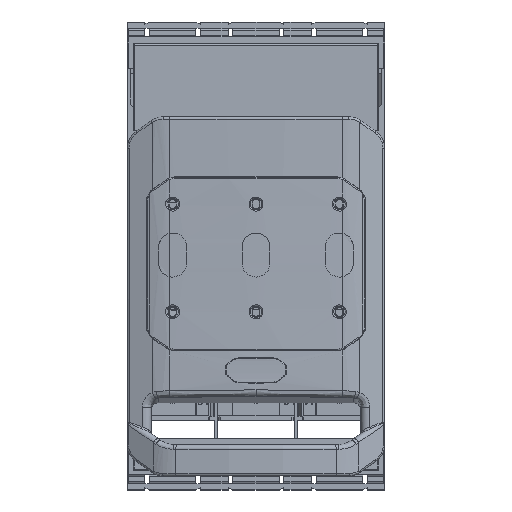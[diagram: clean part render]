
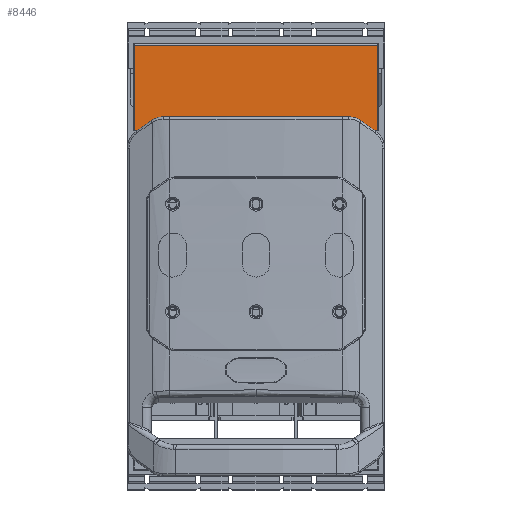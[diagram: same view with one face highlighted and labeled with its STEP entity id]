
A CAD part, top view. The second image highlights one B-rep face of the part: STEP entity #8446.
In plain terms, the highlighted planar face has unit normal (0, 0, 1).
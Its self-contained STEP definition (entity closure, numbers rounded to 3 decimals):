
#4458=CIRCLE('',#89658,0.5);
#4459=CIRCLE('',#89659,0.5);
#8446=ADVANCED_FACE('NONE',(#15721),#11570,.T.);
#11570=PLANE('',#89660);
#15721=FACE_OUTER_BOUND('',#20199,.T.);
#20199=EDGE_LOOP('',(#42664,#42665,#42666,#42667,#42668,#42669,#42670,#42671,
#42672,#42673));
#42664=ORIENTED_EDGE('',*,*,#63890,.T.);
#42665=ORIENTED_EDGE('',*,*,#63891,.T.);
#42666=ORIENTED_EDGE('',*,*,#63892,.F.);
#42667=ORIENTED_EDGE('',*,*,#63893,.F.);
#42668=ORIENTED_EDGE('',*,*,#63894,.F.);
#42669=ORIENTED_EDGE('',*,*,#63895,.F.);
#42670=ORIENTED_EDGE('',*,*,#63877,.T.);
#42671=ORIENTED_EDGE('',*,*,#63773,.T.);
#42672=ORIENTED_EDGE('',*,*,#63790,.T.);
#42673=ORIENTED_EDGE('',*,*,#63787,.T.);
#52026=VERTEX_POINT('',#142035);
#52028=VERTEX_POINT('',#142041);
#52060=VERTEX_POINT('',#142116);
#52071=VERTEX_POINT('',#142145);
#52134=VERTEX_POINT('',#142328);
#52140=VERTEX_POINT('',#142353);
#52141=VERTEX_POINT('',#142355);
#52142=VERTEX_POINT('',#142357);
#52143=VERTEX_POINT('',#142359);
#52144=VERTEX_POINT('',#142361);
#63773=EDGE_CURVE('NONE',#52060,#52028,#73429,.T.);
#63787=EDGE_CURVE('NONE',#52026,#52071,#73442,.T.);
#63790=EDGE_CURVE('NONE',#52028,#52026,#73444,.T.);
#63877=EDGE_CURVE('NONE',#52134,#52060,#73513,.T.);
#63890=EDGE_CURVE('NONE',#52071,#52140,#73526,.T.);
#63891=EDGE_CURVE('NONE',#52140,#52141,#73527,.T.);
#63892=EDGE_CURVE('NONE',#52142,#52141,#4458,.T.);
#63893=EDGE_CURVE('NONE',#52143,#52142,#73528,.T.);
#63894=EDGE_CURVE('NONE',#52144,#52143,#4459,.T.);
#63895=EDGE_CURVE('NONE',#52134,#52144,#73529,.T.);
#73429=LINE('',#142115,#82969);
#73442=LINE('',#142144,#82982);
#73444=LINE('',#142150,#82984);
#73513=LINE('',#142327,#83053);
#73526=LINE('',#142352,#83066);
#73527=LINE('',#142354,#83067);
#73528=LINE('',#142358,#83068);
#73529=LINE('',#142362,#83069);
#82969=VECTOR('',#109952,1.);
#82982=VECTOR('',#109975,1.);
#82984=VECTOR('',#109981,1.);
#83053=VECTOR('',#110144,1.);
#83066=VECTOR('',#110169,1.);
#83067=VECTOR('',#110170,1.);
#83068=VECTOR('',#110173,1.);
#83069=VECTOR('',#110176,1.);
#89658=AXIS2_PLACEMENT_3D('',#142356,#110171,#110172);
#89659=AXIS2_PLACEMENT_3D('',#142360,#110174,#110175);
#89660=AXIS2_PLACEMENT_3D('',#142363,#110177,#110178);
#109952=DIRECTION('',(0.,1.,0.));
#109975=DIRECTION('',(0.,-1.,0.));
#109981=DIRECTION('',(-1.,0.,0.));
#110144=DIRECTION('',(1.,0.,0.));
#110169=DIRECTION('',(1.,0.,0.));
#110170=DIRECTION('',(0.,-1.,0.));
#110171=DIRECTION('',(0.,0.,1.));
#110172=DIRECTION('',(0.,-1.,0.));
#110173=DIRECTION('',(-1.,0.,0.));
#110174=DIRECTION('',(0.,0.,1.));
#110175=DIRECTION('',(0.,1.,0.));
#110176=DIRECTION('',(0.,-1.,0.));
#110177=DIRECTION('',(0.,0.,1.));
#110178=DIRECTION('',(0.,1.,0.));
#142035=CARTESIAN_POINT('',(-52.5,92.,47.5));
#142041=CARTESIAN_POINT('',(52.5,92.,47.5));
#142115=CARTESIAN_POINT('',(52.5,29.,47.5));
#142116=CARTESIAN_POINT('',(52.5,55.,47.5));
#142144=CARTESIAN_POINT('',(-52.5,29.,47.5));
#142145=CARTESIAN_POINT('',(-52.5,55.,47.5));
#142150=CARTESIAN_POINT('',(55.,92.,47.5));
#142327=CARTESIAN_POINT('',(55.,55.,47.5));
#142328=CARTESIAN_POINT('',(48.3,55.,47.5));
#142352=CARTESIAN_POINT('',(-50.,55.,47.5));
#142353=CARTESIAN_POINT('',(-48.3,55.,47.5));
#142354=CARTESIAN_POINT('',(-48.3,29.,47.5));
#142355=CARTESIAN_POINT('',(-48.3,53.5,47.5));
#142356=CARTESIAN_POINT('',(-47.8,53.5,47.5));
#142357=CARTESIAN_POINT('',(-47.8,54.,47.5));
#142358=CARTESIAN_POINT('',(50.,54.,47.5));
#142359=CARTESIAN_POINT('',(47.8,54.,47.5));
#142360=CARTESIAN_POINT('',(47.8,53.5,47.5));
#142361=CARTESIAN_POINT('',(48.3,53.5,47.5));
#142362=CARTESIAN_POINT('',(48.3,29.,47.5));
#142363=CARTESIAN_POINT('',(55.,29.,47.5));
